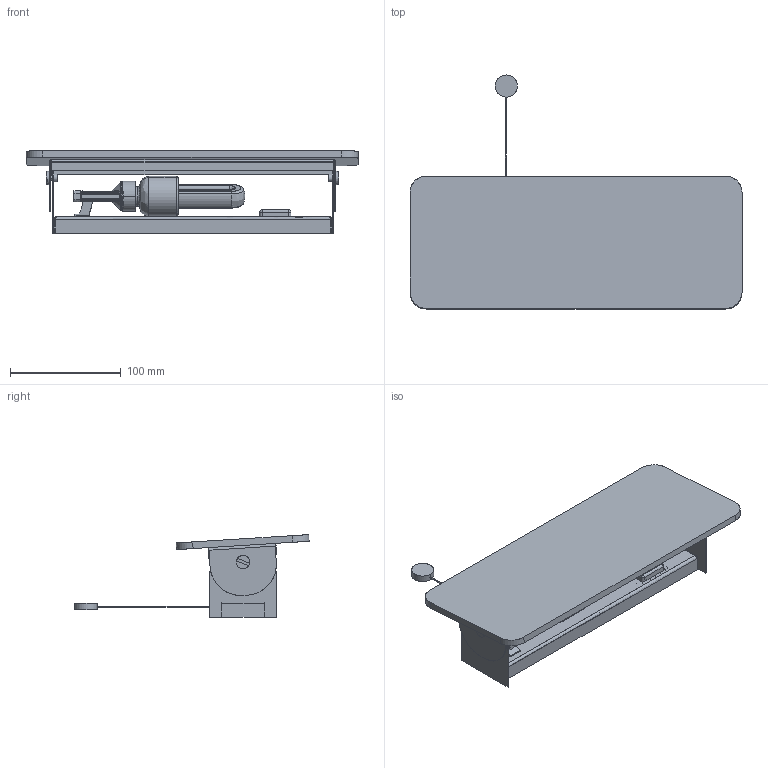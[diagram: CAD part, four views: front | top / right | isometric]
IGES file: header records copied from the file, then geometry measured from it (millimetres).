
Start section: SolidWorks IGES file using analytic representation for surfaces
Global section: file name: E:\....SOLID WORKS\...BORYS\OSLO\OSLO kinkiet T8\kinkiet E14\kinkiet e 14.IGS; native system: SolidWorks 2016; preprocessor: SolidWorks 2016; author: DELL; date: 170419.105625; units: millimetre
Bounding box: 300 x 211.63 x 74.79 mm (x, y, z)
Surface area: 205812.5 mm2 (no closed solid volume)
Topology: 0 solids, 0 shells, 623 faces, 7214 edges, 7200 vertices
Faces by surface type: bspline 379, revolution 244
